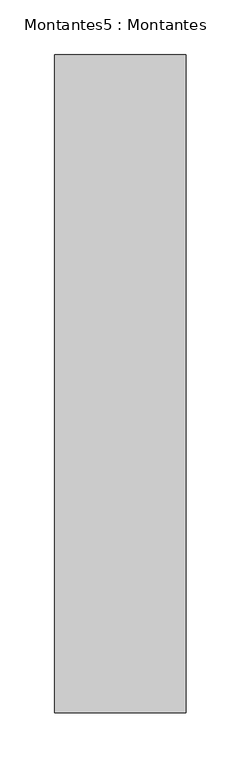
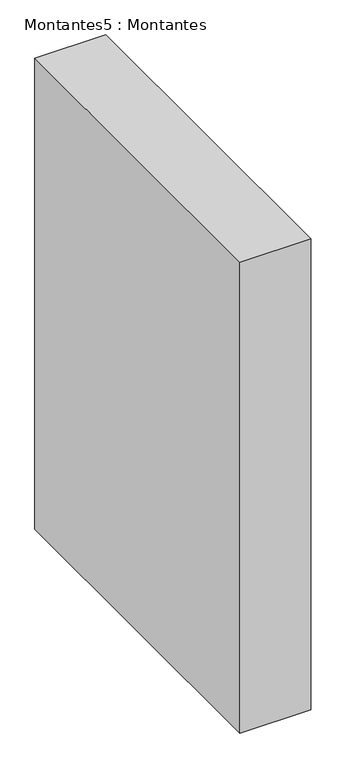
"""IFC4 building model written with IfcOpenShell, lengths in millimetres: column geometry, Montantes5 : Montantes."""

from ifc_helpers import new_model, si_unit, frame, origin, place, context, project, spatial, polyline, outline, extrude, source, transform, mapped, element, save


def montantes5_montantes_dc8b7c8d(model_context):
    return source(origin(), model_context, "Body", "SweptSolid", [
        extrude(outline(polyline([(-3122.3834094, -992.0637549), (-3122.3834094, -1592.0637549), (-3242.3834094, -1592.0637549), (-3242.3834094, -992.0637549), (-3122.3834094, -992.0637549)])), frame((0.0, 0.0, -1.1878781), z_axis=(0.0, 0.0, 1.0), x_axis=(1.0, 0.0, 0.0)), (0.0, 0.0, 1.0), 841.1878781),
    ])


if __name__ == "__main__":
    model = new_model("IFC4")
    model_context = context("Model", 3, world=origin())
    ifc_project = project(units=[si_unit("LENGTHUNIT", "METRE", prefix="MILLI")], contexts=[model_context])
    site = spatial("IfcSite", under=ifc_project)
    building = spatial("IfcBuilding", under=site)
    placement = place(None, origin())
    montantes5_montantes_shape = montantes5_montantes_dc8b7c8d(model_context)
    element("IfcColumn", 1, ObjectType="Montantes5 : Montantes", at=placement, inside=building, context=model_context, shape_type="MappedRepresentation", body=[
        mapped(montantes5_montantes_shape, transform((0.0, 0.0, 0.0), x_axis=(1.0, 0.0, 0.0), y_axis=(0.0, 1.0, 0.0), z_axis=(0.0, 0.0, 1.0))),
    ])
    save(model, "model.ifc")
